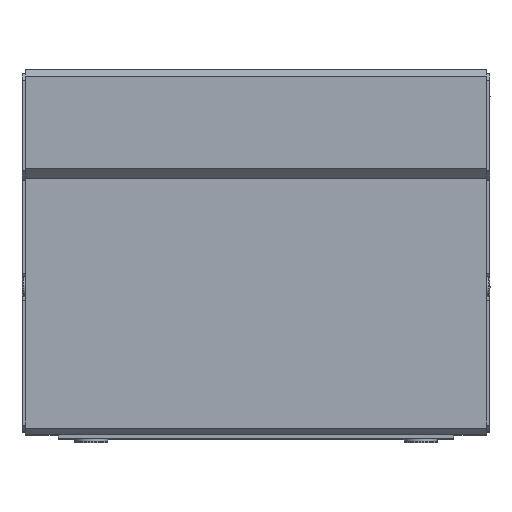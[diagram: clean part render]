
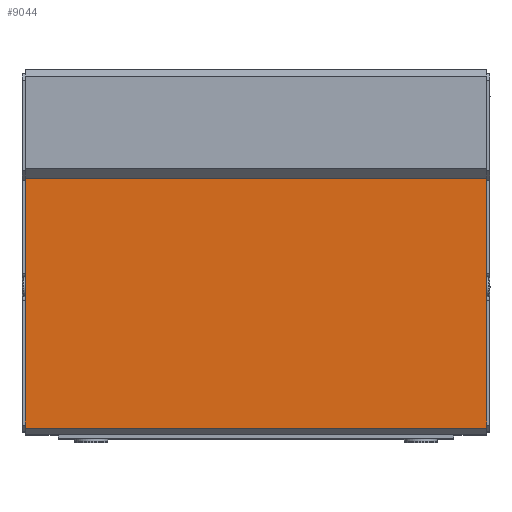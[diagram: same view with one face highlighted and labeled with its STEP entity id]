
A CAD part, top view. The second image highlights one B-rep face of the part: STEP entity #9044.
In plain terms, the highlighted planar face has unit normal (0, 0, 1).
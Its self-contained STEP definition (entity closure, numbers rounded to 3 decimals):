
#77 = ORIENTED_EDGE ( 'NONE', *, *, #8715, .F. ) ;
#118 = CARTESIAN_POINT ( 'NONE',  ( 35., -21.4, 33.5 ) ) ;
#210 = DIRECTION ( 'NONE',  ( -1., 0., 0. ) ) ;
#410 = VECTOR ( 'NONE', #8891, 1000. ) ;
#478 = EDGE_CURVE ( 'NONE', #941, #2862, #1157, .T. ) ;
#941 = VERTEX_POINT ( 'NONE', #6002 ) ;
#954 = VERTEX_POINT ( 'NONE', #1181 ) ;
#1157 = LINE ( 'NONE', #3722, #5244 ) ;
#1181 = CARTESIAN_POINT ( 'NONE',  ( -35., -21.4, 33.5 ) ) ;
#1245 = FACE_OUTER_BOUND ( 'NONE', #2906, .T. ) ;
#1578 = LINE ( 'NONE', #2173, #4351 ) ;
#2096 = CARTESIAN_POINT ( 'NONE',  ( 35., 16.5, 33.5 ) ) ;
#2125 = DIRECTION ( 'NONE',  ( 0., 0., -1. ) ) ;
#2173 = CARTESIAN_POINT ( 'NONE',  ( 35., 16.5, 33.5 ) ) ;
#2306 = LINE ( 'NONE', #7539, #410 ) ;
#2862 = VERTEX_POINT ( 'NONE', #8791 ) ;
#2906 = EDGE_LOOP ( 'NONE', ( #5108, #4368, #77, #5673 ) ) ;
#3108 = EDGE_CURVE ( 'NONE', #2862, #954, #2306, .T. ) ;
#3483 = LINE ( 'NONE', #4457, #5228 ) ;
#3722 = CARTESIAN_POINT ( 'NONE',  ( 35., 16.5, 33.5 ) ) ;
#4307 = DIRECTION ( 'NONE',  ( 0., -1., 0. ) ) ;
#4351 = VECTOR ( 'NONE', #4307, 1000. ) ;
#4368 = ORIENTED_EDGE ( 'NONE', *, *, #8269, .F. ) ;
#4457 = CARTESIAN_POINT ( 'NONE',  ( 35., -21.4, 33.5 ) ) ;
#5108 = ORIENTED_EDGE ( 'NONE', *, *, #3108, .T. ) ;
#5228 = VECTOR ( 'NONE', #210, 1000. ) ;
#5244 = VECTOR ( 'NONE', #7303, 1000. ) ;
#5629 = AXIS2_PLACEMENT_3D ( 'NONE', #2096, #2125, #5674 ) ;
#5673 = ORIENTED_EDGE ( 'NONE', *, *, #478, .T. ) ;
#5674 = DIRECTION ( 'NONE',  ( -1., 0., 0. ) ) ;
#5830 = VERTEX_POINT ( 'NONE', #118 ) ;
#6002 = CARTESIAN_POINT ( 'NONE',  ( 35., 16.5, 33.5 ) ) ;
#7303 = DIRECTION ( 'NONE',  ( -1., 0., 0. ) ) ;
#7539 = CARTESIAN_POINT ( 'NONE',  ( -35., 16.5, 33.5 ) ) ;
#8269 = EDGE_CURVE ( 'NONE', #5830, #954, #3483, .T. ) ;
#8715 = EDGE_CURVE ( 'NONE', #941, #5830, #1578, .T. ) ;
#8791 = CARTESIAN_POINT ( 'NONE',  ( -35., 16.5, 33.5 ) ) ;
#8891 = DIRECTION ( 'NONE',  ( 0., -1., 0. ) ) ;
#9044 = ADVANCED_FACE ( 'NONE', ( #1245 ), #9244, .F. ) ;
#9244 = PLANE ( 'NONE',  #5629 ) ;
